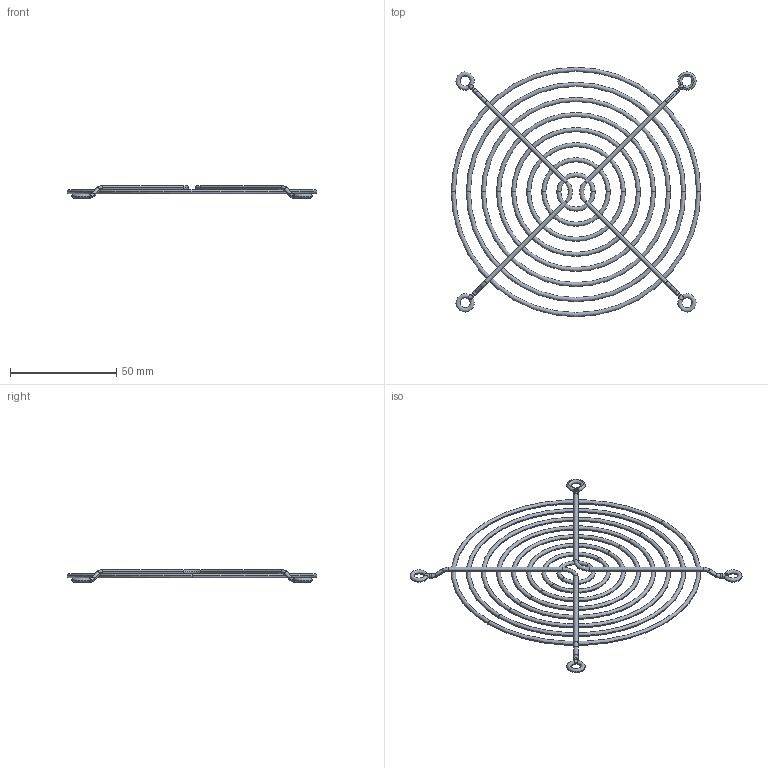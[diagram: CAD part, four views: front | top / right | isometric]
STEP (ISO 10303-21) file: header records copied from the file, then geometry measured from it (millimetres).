
FILE_DESCRIPTION((''),'2;1');
FILE_NAME('102455','2022-03-18T10:46:04',('dougp'),('SAGINAW CONTROL & ENGINEERING'),'CREO PARAMETRIC BY PTC INC, 2021284','CREO PARAMETRIC BY PTC INC, 2021284','');
FILE_SCHEMA(('AUTOMOTIVE_DESIGN { 1 0 10303 214 1 1 1 1 }'));
Length unit declared in the file: inch
Products named in the file (1): 102455
Bounding box: 117.65 x 117.65 x 5.85 mm (x, y, z)
Volume: 5906.4 mm3; surface area: 12250.4 mm2
Topology: 10 solids, 10 shells, 96 faces, 198 edges, 106 vertices
Faces by surface type: torus 68, cylinder 24, plane 4
Entity records: 3149 total; most frequent: CARTESIAN_POINT 978, DIRECTION 516, ORIENTED_EDGE 396, AXIS2_PLACEMENT_3D 246, EDGE_CURVE 198, CIRCLE 150, VERTEX_POINT 106, EDGE_LOOP 96
